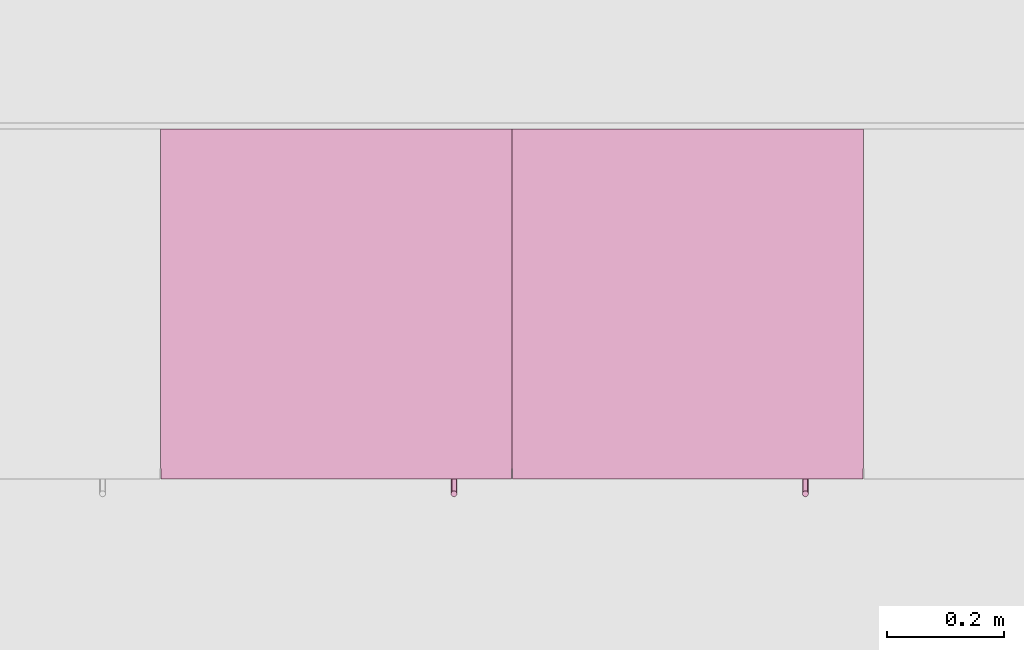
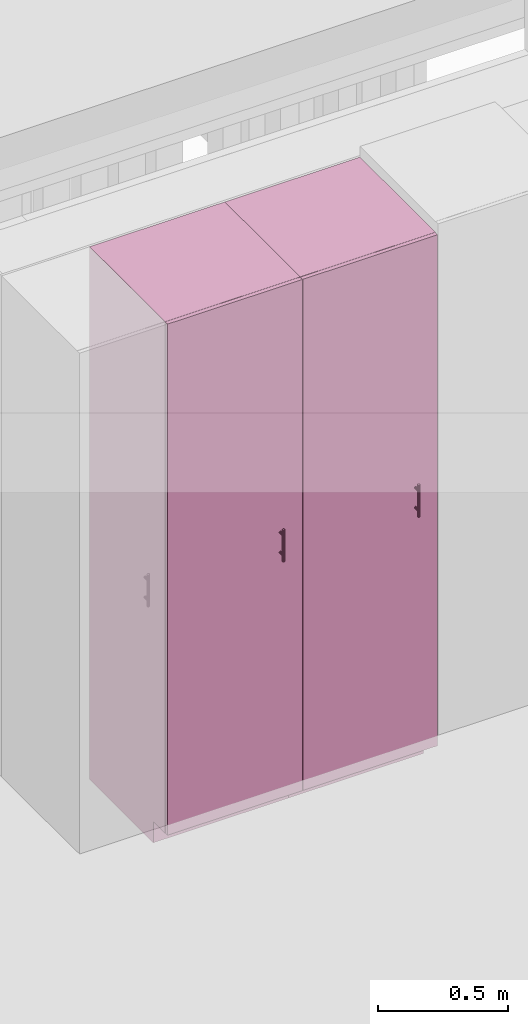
# One storey, part 30 of 34: 2 furniture elements.
"""IFC4 building model written with IfcOpenShell, lengths in millimetres."""

from ifc_helpers import new_model, entity, si_unit, converted_unit, derived_unit, direction, frame, origin_with_axes, place, context, subcontext, project, spatial, polygons, source, transform, mapped, type_object, element, save


model = new_model("IFC4")

# Units and contexts
model_context = context("Model", 3, precision=0.01, world=origin_with_axes(), true_north=direction((0.0, 1.0)))
body_context = subcontext(model_context, "Body", "Model", "MODEL_VIEW")
ifc_project = project(units=[si_unit("LENGTHUNIT", "METRE", prefix="MILLI"), si_unit("AREAUNIT", "SQUARE_METRE"), si_unit("VOLUMEUNIT", "CUBIC_METRE"), converted_unit("PLANEANGLEUNIT", "DEGREE", entity("IfcPlaneAngleMeasure", 0.0174532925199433), si_unit("PLANEANGLEUNIT", "RADIAN"), dimensions=[0, 0, 0, 0, 0, 0, 0]), converted_unit("TIMEUNIT", "Year", entity("IfcTimeMeasure", 31557600.0), si_unit("TIMEUNIT", "SECOND"), dimensions=[0, 0, 1, 0, 0, 0, 0]), si_unit("MASSUNIT", "GRAM", prefix="KILO"), si_unit("THERMODYNAMICTEMPERATUREUNIT", "DEGREE_CELSIUS"), si_unit("LUMINOUSINTENSITYUNIT", "LUMEN"), si_unit("ENERGYUNIT", "JOULE", prefix="MEGA"), derived_unit("THERMALCONDUCTANCEUNIT", [(si_unit("POWERUNIT", "WATT"), 1), (si_unit("LENGTHUNIT", "METRE"), -1), (si_unit("THERMODYNAMICTEMPERATUREUNIT", "KELVIN"), -1)]), derived_unit("SPECIFICHEATCAPACITYUNIT", [(si_unit("ENERGYUNIT", "JOULE"), 1), (si_unit("MASSUNIT", "GRAM", prefix="KILO"), -1), (si_unit("THERMODYNAMICTEMPERATUREUNIT", "KELVIN"), -1)]), derived_unit("MASSDENSITYUNIT", [(si_unit("MASSUNIT", "GRAM", prefix="KILO"), 1), (si_unit("VOLUMEUNIT", "CUBIC_METRE"), -1)])], contexts=[model_context])

# Site, building, storey
site_placement = place(None, origin_with_axes())
site = spatial("IfcSite", under=ifc_project, at=site_placement, Name="Gelände", CompositionType="ELEMENT")
building_placement = place(site_placement, origin_with_axes())
building = spatial("IfcBuilding", under=site, at=building_placement, Name="Gebäude", CompositionType="ELEMENT")
storey_placement = place(building_placement, frame((0.0, 0.0, 5799.999999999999), z_axis=(0.0, 0.0, 1.0), x_axis=(1.0, 0.0, 0.0)))
storey = spatial("IfcBuildingStorey", under=building, at=storey_placement, Name="2.OG", CompositionType="ELEMENT", Elevation=5800.0)

# Furniture
furniture_type = type_object("IfcFurnitureType", Name="Stehender Schrank Block 27", AssemblyPlace="NOTDEFINED", PredefinedType="NOTDEFINED")
shared_shape = source(origin_with_axes(), body_context, "Body", "Tessellation", [
    polygons([(501.8682408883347, -597.9999999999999, 1352.799038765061), (502.7101007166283, -597.9999999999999, 1352.573463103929), (503.4999999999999, -597.9999999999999, 1352.205127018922), (504.2139380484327, -597.9999999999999, 1351.705222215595), (504.8302222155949, -597.9999999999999, 1351.088938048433), (505.3301270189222, -597.9999999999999, 1350.375), (505.6984631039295, -597.9999999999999, 1349.585100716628), (505.924038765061, -597.9999999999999, 1348.743240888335), (506.0, -597.9999999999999, 1347.875), (505.924038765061, -597.9999999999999, 1347.006759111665), (505.6984631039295, -597.9999999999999, 1346.164899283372), (505.3301270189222, -597.9999999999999, 1345.375), (504.8302222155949, -597.9999999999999, 1344.661061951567), (504.2139380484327, -597.9999999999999, 1344.044777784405), (503.4999999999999, -597.9999999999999, 1343.544872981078), (502.7101007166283, -597.9999999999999, 1343.176536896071), (501.8682408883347, -597.9999999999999, 1342.950961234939), (501.0, -597.9999999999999, 1342.875), (500.1317591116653, -597.9999999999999, 1342.950961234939), (499.2898992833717, -597.9999999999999, 1343.176536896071), (498.5, -597.9999999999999, 1343.544872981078), (497.7860619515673, -597.9999999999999, 1344.044777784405), (497.1697777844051, -597.9999999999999, 1344.661061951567), (496.6698729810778, -597.9999999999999, 1345.375), (496.3015368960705, -597.9999999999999, 1346.164899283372), (496.075961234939, -597.9999999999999, 1347.006759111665), (496.0, -597.9999999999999, 1347.875), (496.075961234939, -597.9999999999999, 1348.743240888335), (496.3015368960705, -597.9999999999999, 1349.585100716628), (496.6698729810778, -597.9999999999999, 1350.375), (497.1697777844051, -597.9999999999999, 1351.088938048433), (497.7860619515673, -597.9999999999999, 1351.705222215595), (498.5, -597.9999999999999, 1352.205127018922), (499.2898992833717, -597.9999999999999, 1352.573463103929), (500.1317591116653, -597.9999999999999, 1352.799038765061), (501.0, -597.9999999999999, 1352.875), (501.8682408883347, -622.9999999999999, 1352.799038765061), (502.7101007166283, -622.9999999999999, 1352.573463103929), (503.4999999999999, -622.9999999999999, 1352.205127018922), (504.2139380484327, -622.9999999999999, 1351.705222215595), (504.8302222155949, -622.9999999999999, 1351.088938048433), (505.3301270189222, -622.9999999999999, 1350.375), (505.6984631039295, -622.9999999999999, 1349.585100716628), (505.924038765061, -622.9999999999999, 1348.743240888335), (506.0, -622.9999999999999, 1347.875), (505.924038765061, -622.9999999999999, 1347.006759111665), (505.6984631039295, -622.9999999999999, 1346.164899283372), (505.3301270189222, -622.9999999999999, 1345.375), (504.8302222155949, -622.9999999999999, 1344.661061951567), (504.2139380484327, -622.9999999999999, 1344.044777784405), (503.4999999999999, -622.9999999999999, 1343.544872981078), (502.7101007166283, -622.9999999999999, 1343.176536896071), (501.8682408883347, -622.9999999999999, 1342.950961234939), (501.0, -622.9999999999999, 1342.875), (500.1317591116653, -622.9999999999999, 1342.950961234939), (499.2898992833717, -622.9999999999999, 1343.176536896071), (498.5, -622.9999999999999, 1343.544872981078), (497.7860619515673, -622.9999999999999, 1344.044777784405), (497.1697777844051, -622.9999999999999, 1344.661061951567), (496.6698729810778, -622.9999999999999, 1345.375), (496.3015368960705, -622.9999999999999, 1346.164899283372), (496.075961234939, -622.9999999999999, 1347.006759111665), (496.0, -622.9999999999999, 1347.875), (496.075961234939, -622.9999999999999, 1348.743240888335), (496.3015368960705, -622.9999999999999, 1349.585100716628), (496.6698729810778, -622.9999999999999, 1350.375), (497.1697777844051, -622.9999999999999, 1351.088938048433), (497.7860619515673, -622.9999999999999, 1351.705222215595), (498.5, -622.9999999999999, 1352.205127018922), (499.2898992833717, -622.9999999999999, 1352.573463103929), (500.1317591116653, -622.9999999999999, 1352.799038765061), (501.0, -622.9999999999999, 1352.875)], [[[1, 2, 3, 4, 5, 6, 7, 8, 9, 10, 11, 12, 13, 14, 15, 16, 17, 18, 19, 20, 21, 22, 23, 24, 25, 26, 27, 28, 29, 30, 31, 32, 33, 34, 35, 36]], [[2, 1, 37, 38]], [[3, 2, 38, 39]], [[4, 3, 39, 40]], [[5, 4, 40, 41]], [[6, 5, 41, 42]], [[7, 6, 42, 43]], [[8, 7, 43, 44]], [[9, 8, 44, 45]], [[10, 9, 45, 46]], [[11, 10, 46, 47]], [[12, 11, 47, 48]], [[13, 12, 48, 49]], [[14, 13, 49, 50]], [[15, 14, 50, 51]], [[16, 15, 51, 52]], [[17, 16, 52, 53]], [[18, 17, 53, 54]], [[19, 18, 54, 55]], [[20, 19, 55, 56]], [[21, 20, 56, 57]], [[22, 21, 57, 58]], [[23, 22, 58, 59]], [[24, 23, 59, 60]], [[25, 24, 60, 61]], [[26, 25, 61, 62]], [[27, 26, 62, 63]], [[28, 27, 63, 64]], [[29, 28, 64, 65]], [[30, 29, 65, 66]], [[31, 30, 66, 67]], [[32, 31, 67, 68]], [[33, 32, 68, 69]], [[34, 33, 69, 70]], [[35, 34, 70, 71]], [[36, 35, 71, 72]], [[1, 36, 72, 37]], [[37, 72, 71, 70, 69, 68, 67, 66, 65, 64, 63, 62, 61, 60, 59, 58, 57, 56, 55, 54, 53, 52, 51, 50, 49, 48, 47, 46, 45, 44, 43, 42, 41, 40, 39, 38]]], closed=True),
    polygons([(501.8682408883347, -597.9999999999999, 1249.200961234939), (501.0, -597.9999999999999, 1249.125), (500.1317591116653, -597.9999999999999, 1249.200961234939), (499.2898992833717, -597.9999999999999, 1249.426536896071), (498.5, -597.9999999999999, 1249.794872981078), (497.7860619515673, -597.9999999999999, 1250.294777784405), (497.1697777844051, -597.9999999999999, 1250.911061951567), (496.6698729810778, -597.9999999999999, 1251.625), (496.3015368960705, -597.9999999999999, 1252.414899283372), (496.075961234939, -597.9999999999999, 1253.256759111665), (496.0, -597.9999999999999, 1254.125), (496.075961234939, -597.9999999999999, 1254.993240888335), (496.3015368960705, -597.9999999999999, 1255.835100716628), (496.6698729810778, -597.9999999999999, 1256.625), (497.1697777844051, -597.9999999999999, 1257.338938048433), (497.7860619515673, -597.9999999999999, 1257.955222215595), (498.5, -597.9999999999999, 1258.455127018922), (499.2898992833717, -597.9999999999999, 1258.823463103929), (500.1317591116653, -597.9999999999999, 1259.049038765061), (501.0, -597.9999999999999, 1259.125), (501.8682408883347, -597.9999999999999, 1259.049038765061), (502.7101007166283, -597.9999999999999, 1258.823463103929), (503.4999999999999, -597.9999999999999, 1258.455127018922), (504.2139380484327, -597.9999999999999, 1257.955222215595), (504.8302222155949, -597.9999999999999, 1257.338938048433), (505.3301270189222, -597.9999999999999, 1256.625), (505.6984631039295, -597.9999999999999, 1255.835100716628), (505.924038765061, -597.9999999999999, 1254.993240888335), (506.0, -597.9999999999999, 1254.125), (505.924038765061, -597.9999999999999, 1253.256759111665), (505.6984631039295, -597.9999999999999, 1252.414899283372), (505.3301270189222, -597.9999999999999, 1251.625), (504.8302222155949, -597.9999999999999, 1250.911061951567), (504.2139380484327, -597.9999999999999, 1250.294777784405), (503.4999999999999, -597.9999999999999, 1249.794872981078), (502.7101007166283, -597.9999999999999, 1249.426536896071), (501.8682408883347, -622.9999999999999, 1249.200961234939), (501.0, -622.9999999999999, 1249.125), (500.1317591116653, -622.9999999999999, 1249.200961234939), (499.2898992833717, -622.9999999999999, 1249.426536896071), (498.5, -622.9999999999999, 1249.794872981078), (497.7860619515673, -622.9999999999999, 1250.294777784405), (497.1697777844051, -622.9999999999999, 1250.911061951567), (496.6698729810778, -622.9999999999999, 1251.625), (496.3015368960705, -622.9999999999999, 1252.414899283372), (496.075961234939, -622.9999999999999, 1253.256759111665), (496.0, -622.9999999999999, 1254.125), (496.075961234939, -622.9999999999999, 1254.993240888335), (496.3015368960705, -622.9999999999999, 1255.835100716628), (496.6698729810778, -622.9999999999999, 1256.625), (497.1697777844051, -622.9999999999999, 1257.338938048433), (497.7860619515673, -622.9999999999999, 1257.955222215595), (498.5, -622.9999999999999, 1258.455127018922), (499.2898992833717, -622.9999999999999, 1258.823463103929), (500.1317591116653, -622.9999999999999, 1259.049038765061), (501.0, -622.9999999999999, 1259.125), (501.8682408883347, -622.9999999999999, 1259.049038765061), (502.7101007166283, -622.9999999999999, 1258.823463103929), (503.4999999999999, -622.9999999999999, 1258.455127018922), (504.2139380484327, -622.9999999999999, 1257.955222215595), (504.8302222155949, -622.9999999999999, 1257.338938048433), (505.3301270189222, -622.9999999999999, 1256.625), (505.6984631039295, -622.9999999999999, 1255.835100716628), (505.924038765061, -622.9999999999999, 1254.993240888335), (506.0, -622.9999999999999, 1254.125), (505.924038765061, -622.9999999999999, 1253.256759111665), (505.6984631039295, -622.9999999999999, 1252.414899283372), (505.3301270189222, -622.9999999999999, 1251.625), (504.8302222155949, -622.9999999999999, 1250.911061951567), (504.2139380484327, -622.9999999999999, 1250.294777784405), (503.4999999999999, -622.9999999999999, 1249.794872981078), (502.7101007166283, -622.9999999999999, 1249.426536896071)], [[[1, 2, 3, 4, 5, 6, 7, 8, 9, 10, 11, 12, 13, 14, 15, 16, 17, 18, 19, 20, 21, 22, 23, 24, 25, 26, 27, 28, 29, 30, 31, 32, 33, 34, 35, 36]], [[1, 37, 38, 2]], [[2, 38, 39, 3]], [[3, 39, 40, 4]], [[4, 40, 41, 5]], [[5, 41, 42, 6]], [[6, 42, 43, 7]], [[7, 43, 44, 8]], [[8, 44, 45, 9]], [[9, 45, 46, 10]], [[10, 46, 47, 11]], [[11, 47, 48, 12]], [[12, 48, 49, 13]], [[13, 49, 50, 14]], [[14, 50, 51, 15]], [[15, 51, 52, 16]], [[16, 52, 53, 17]], [[17, 53, 54, 18]], [[18, 54, 55, 19]], [[19, 55, 56, 20]], [[20, 56, 57, 21]], [[21, 57, 58, 22]], [[22, 58, 59, 23]], [[23, 59, 60, 24]], [[24, 60, 61, 25]], [[25, 61, 62, 26]], [[26, 62, 63, 27]], [[27, 63, 64, 28]], [[28, 64, 65, 29]], [[29, 65, 66, 30]], [[30, 66, 67, 31]], [[31, 67, 68, 32]], [[32, 68, 69, 33]], [[33, 69, 70, 34]], [[34, 70, 71, 35]], [[35, 71, 72, 36]], [[36, 72, 37, 1]], [[37, 72, 71, 70, 69, 68, 67, 66, 65, 64, 63, 62, 61, 60, 59, 58, 57, 56, 55, 54, 53, 52, 51, 50, 49, 48, 47, 46, 45, 44, 43, 42, 41, 40, 39, 38]]], closed=True),
    polygons([(501.8682408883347, -618.0759612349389, 1226.0), (502.7101007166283, -618.3015368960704, 1226.0), (503.4999999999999, -618.6698729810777, 1226.0), (504.2139380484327, -619.1697777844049, 1226.0), (504.8302222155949, -619.7860619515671, 1226.0), (505.3301270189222, -620.4999999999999, 1226.0), (505.6984631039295, -621.2898992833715, 1226.0), (505.924038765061, -622.1317591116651, 1226.0), (506.0, -622.9999999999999, 1226.0), (505.924038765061, -623.8682408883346, 1226.0), (505.6984631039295, -624.7101007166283, 1226.0), (505.3301270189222, -625.4999999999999, 1226.0), (504.8302222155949, -626.2139380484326, 1226.0), (504.2139380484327, -626.8302222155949, 1226.0), (503.4999999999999, -627.3301270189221, 1226.0), (502.7101007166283, -627.6984631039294, 1226.0), (501.8682408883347, -627.924038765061, 1226.0), (501.0, -627.9999999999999, 1226.0), (500.1317591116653, -627.924038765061, 1226.0), (499.2898992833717, -627.6984631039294, 1226.0), (498.5, -627.3301270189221, 1226.0), (497.7860619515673, -626.8302222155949, 1226.0), (497.1697777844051, -626.2139380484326, 1226.0), (496.6698729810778, -625.4999999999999, 1226.0), (496.3015368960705, -624.7101007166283, 1226.0), (496.075961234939, -623.8682408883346, 1226.0), (496.0, -622.9999999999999, 1226.0), (496.075961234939, -622.1317591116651, 1226.0), (496.3015368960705, -621.2898992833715, 1226.0), (496.6698729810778, -620.4999999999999, 1226.0), (497.1697777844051, -619.7860619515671, 1226.0), (497.7860619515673, -619.1697777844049, 1226.0), (498.5, -618.6698729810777, 1226.0), (499.2898992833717, -618.3015368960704, 1226.0), (500.1317591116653, -618.0759612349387, 1226.0), (501.0, -617.9999999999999, 1226.0), (501.8682408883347, -618.0759612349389, 1376.0), (502.7101007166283, -618.3015368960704, 1376.0), (503.5000000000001, -618.6698729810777, 1376.0), (504.2139380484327, -619.1697777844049, 1376.0), (504.8302222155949, -619.7860619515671, 1376.0), (505.3301270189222, -620.4999999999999, 1376.0), (505.6984631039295, -621.2898992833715, 1376.0), (505.9240387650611, -622.1317591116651, 1376.0), (506.0, -622.9999999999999, 1376.0), (505.9240387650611, -623.8682408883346, 1376.0), (505.6984631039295, -624.7101007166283, 1376.0), (505.3301270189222, -625.4999999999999, 1376.0), (504.8302222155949, -626.2139380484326, 1376.0), (504.2139380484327, -626.8302222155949, 1376.0), (503.5000000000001, -627.3301270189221, 1376.0), (502.7101007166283, -627.6984631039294, 1376.0), (501.8682408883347, -627.924038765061, 1376.0), (501.0, -627.9999999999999, 1376.0), (500.1317591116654, -627.924038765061, 1376.0), (499.2898992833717, -627.6984631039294, 1376.0), (498.5, -627.3301270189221, 1376.0), (497.7860619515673, -626.8302222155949, 1376.0), (497.1697777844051, -626.2139380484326, 1376.0), (496.6698729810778, -625.4999999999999, 1376.0), (496.3015368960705, -624.7101007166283, 1376.0), (496.075961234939, -623.8682408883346, 1376.0), (496.0, -622.9999999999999, 1376.0), (496.075961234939, -622.1317591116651, 1376.0), (496.3015368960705, -621.2898992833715, 1376.0), (496.6698729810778, -620.4999999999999, 1376.0), (497.1697777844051, -619.7860619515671, 1376.0), (497.7860619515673, -619.1697777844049, 1376.0), (498.5, -618.6698729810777, 1376.0), (499.2898992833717, -618.3015368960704, 1376.0), (500.1317591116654, -618.0759612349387, 1376.0), (501.0, -617.9999999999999, 1376.0)], [[[1, 2, 3, 4, 5, 6, 7, 8, 9, 10, 11, 12, 13, 14, 15, 16, 17, 18, 19, 20, 21, 22, 23, 24, 25, 26, 27, 28, 29, 30, 31, 32, 33, 34, 35, 36]], [[2, 1, 37, 38]], [[3, 2, 38, 39]], [[4, 3, 39, 40]], [[5, 4, 40, 41]], [[6, 5, 41, 42]], [[7, 6, 42, 43]], [[8, 7, 43, 44]], [[9, 8, 44, 45]], [[10, 9, 45, 46]], [[11, 10, 46, 47]], [[12, 11, 47, 48]], [[13, 12, 48, 49]], [[14, 13, 49, 50]], [[15, 14, 50, 51]], [[16, 15, 51, 52]], [[17, 16, 52, 53]], [[18, 17, 53, 54]], [[19, 18, 54, 55]], [[20, 19, 55, 56]], [[21, 20, 56, 57]], [[22, 21, 57, 58]], [[23, 22, 58, 59]], [[24, 23, 59, 60]], [[25, 24, 60, 61]], [[26, 25, 61, 62]], [[27, 26, 62, 63]], [[28, 27, 63, 64]], [[29, 28, 64, 65]], [[30, 29, 65, 66]], [[31, 30, 66, 67]], [[32, 31, 67, 68]], [[33, 32, 68, 69]], [[34, 33, 69, 70]], [[35, 34, 70, 71]], [[36, 35, 71, 72]], [[1, 36, 72, 37]], [[37, 72, 71, 70, 69, 68, 67, 66, 65, 64, 63, 62, 61, 60, 59, 58, 57, 56, 55, 54, 53, 52, 51, 50, 49, 48, 47, 46, 45, 44, 43, 42, 41, 40, 39, 38]]], closed=True),
    polygons([(1.0, -580.0, 101.0), (599.0, -580.0, 101.0), (599.0, -598.0, 101.0), (1.0, -598.0, 101.0), (1.0, -579.9999999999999, 2499.0), (599.0, -579.9999999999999, 2499.0), (599.0, -597.9999999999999, 2499.0), (1.0, -597.9999999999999, 2499.0)], [[[1, 2, 3, 4]], [[1, 5, 6, 2]], [[2, 6, 7, 3]], [[4, 3, 7, 8]], [[5, 1, 4, 8]], [[6, 5, 8, 7]]], closed=True),
    polygons([(18.0, -580.0, 100.0), (582.0, -580.0, 100.0), (582.0, -580.0, 118.0), (18.0, -580.0, 118.0), (18.0, 0.0, 100.0), (582.0, 0.0, 100.0), (582.0, 0.0, 118.0), (18.0, 0.0, 118.0)], [[[1, 2, 3, 4]], [[1, 5, 6, 2]], [[2, 6, 7, 3]], [[4, 3, 7, 8]], [[5, 1, 4, 8]], [[6, 5, 8, 7]]], closed=True),
    polygons([(18.0, -580.0, 2482.0), (582.0, -580.0, 2482.0), (582.0, -580.0, 2500.0), (18.0, -580.0, 2500.0), (18.0, 0.0, 2482.0), (582.0, 0.0, 2482.0), (582.0, 0.0, 2500.0), (18.0, 0.0, 2500.0)], [[[1, 2, 3, 4]], [[1, 5, 6, 2]], [[2, 6, 7, 3]], [[4, 3, 7, 8]], [[5, 1, 4, 8]], [[6, 5, 8, 7]]], closed=True),
    polygons([(0.0, 0.0, 100.0), (0.0, -580.0, 100.0), (0.0, -580.0, 2500.0), (0.0, 0.0, 2500.0), (18.0, 0.0, 100.0), (18.0, -580.0, 100.0), (18.0, -580.0, 2500.0), (18.0, 0.0, 2500.0)], [[[1, 2, 3, 4]], [[1, 5, 6, 2]], [[2, 6, 7, 3]], [[4, 3, 7, 8]], [[5, 1, 4, 8]], [[6, 5, 8, 7]]], closed=True),
    polygons([(600.0, -580.0, 100.0), (600.0, 0.0, 100.0), (600.0, 0.0, 2500.0), (600.0, -580.0, 2500.0), (582.0, -580.0, 100.0), (582.0, 0.0, 100.0), (582.0, 0.0, 2500.0), (582.0, -580.0, 2500.0)], [[[1, 2, 3, 4]], [[1, 5, 6, 2]], [[2, 6, 7, 3]], [[4, 3, 7, 8]], [[5, 1, 4, 8]], [[6, 5, 8, 7]]], closed=True),
    polygons([(582.0, -9.0, 118.0), (18.00000000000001, -9.0, 118.0), (18.00000000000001, -9.0, 2482.0), (582.0, -9.0, 2482.0), (582.0, -18.0, 118.0), (18.00000000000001, -18.0, 118.0), (18.00000000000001, -18.0, 2482.0), (582.0, -18.0, 2482.0)], [[[1, 2, 3, 4]], [[1, 5, 6, 2]], [[2, 6, 7, 3]], [[4, 3, 7, 8]], [[5, 1, 4, 8]], [[6, 5, 8, 7]]], closed=True),
    polygons([(0.0, -490.0, 0.0), (600.0, -490.0, 0.0), (600.0, -490.0, 100.0), (0.0, -490.0, 100.0), (0.0, 0.0, 0.0), (600.0, 0.0, 0.0), (600.0, 0.0, 100.0), (0.0, 0.0, 100.0)], [[[1, 2, 3, 4]], [[1, 5, 6, 2]], [[2, 6, 7, 3]], [[4, 3, 7, 8]], [[5, 1, 4, 8]], [[6, 5, 8, 7]]], closed=True),
])
for number, where, z_axis, x_axis in (
    (1, (16409.99744477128, 27937.59728131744, 150.0000000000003), (0.0, 0.0, 1.0), (1.0, 0.0, 0.0)),
    (2, (15809.99744477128, 27937.59728131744, 150.0000000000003), (0.0, 0.0, 1.0), (1.0, 0.0, 0.0)),
):
    element("IfcFurniture", number, at=place(storey_placement, frame(where, z_axis=z_axis, x_axis=x_axis)), inside=storey, type_object=furniture_type, Name="Möbel-021", PredefinedType="NOTDEFINED", context=body_context, shape_type="MappedRepresentation", body=[
        mapped(shared_shape, transform((0.0, 0.0, 0.0))),
    ])

save(model, "model.ifc")
